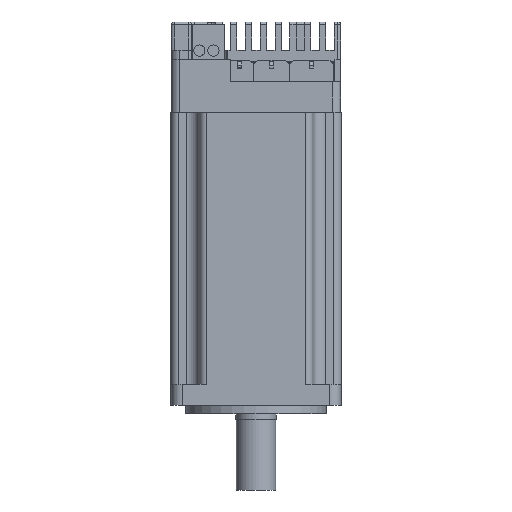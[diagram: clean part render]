
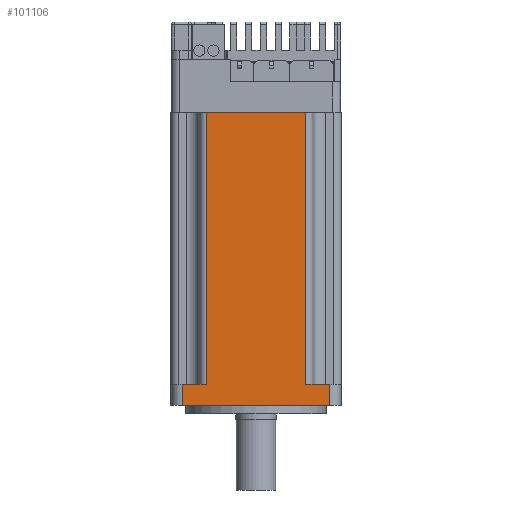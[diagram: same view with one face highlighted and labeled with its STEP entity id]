
A CAD part, front view. The second image highlights one B-rep face of the part: STEP entity #101106.
In plain terms, the highlighted planar face has unit normal (0, -1, 0).
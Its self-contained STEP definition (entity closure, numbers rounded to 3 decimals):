
#405 = DIRECTION ( 'NONE',  ( 0., 0., -1. ) ) ;
#935 = EDGE_CURVE ( 'NONE', #37239, #153620, #44738, .T. ) ;
#1781 = EDGE_CURVE ( 'NONE', #125103, #114938, #113337, .T. ) ;
#6971 = CARTESIAN_POINT ( 'NONE',  ( 26.15, -30.15, 7.5 ) ) ;
#12540 = CARTESIAN_POINT ( 'NONE',  ( -17.65, -30.15, 7.5 ) ) ;
#15590 = DIRECTION ( 'NONE',  ( 0., 0., -1. ) ) ;
#16151 = EDGE_CURVE ( 'NONE', #25704, #52038, #116669, .T. ) ;
#17747 = CARTESIAN_POINT ( 'NONE',  ( 26.15, -30.15, 7.5 ) ) ;
#18412 = LINE ( 'NONE', #127237, #50770 ) ;
#23272 = CARTESIAN_POINT ( 'NONE',  ( 17.65, -30.15, 104. ) ) ;
#24786 = VECTOR ( 'NONE', #119898, 1000. ) ;
#25704 = VERTEX_POINT ( 'NONE', #60937 ) ;
#27536 = VECTOR ( 'NONE', #107231, 1000. ) ;
#30593 = DIRECTION ( 'NONE',  ( 0., 1., 0. ) ) ;
#36404 = CARTESIAN_POINT ( 'NONE',  ( -26.15, -30.15, 7.5 ) ) ;
#36591 = LINE ( 'NONE', #12540, #96817 ) ;
#37239 = VERTEX_POINT ( 'NONE', #23272 ) ;
#38803 = CARTESIAN_POINT ( 'NONE',  ( -17.65, -30.15, 104. ) ) ;
#40337 = DIRECTION ( 'NONE',  ( 1., 0., 0. ) ) ;
#42034 = VERTEX_POINT ( 'NONE', #78975 ) ;
#44013 = ORIENTED_EDGE ( 'NONE', *, *, #1781, .T. ) ;
#44738 = LINE ( 'NONE', #58384, #27536 ) ;
#47433 = ORIENTED_EDGE ( 'NONE', *, *, #132099, .F. ) ;
#50770 = VECTOR ( 'NONE', #61966, 1000. ) ;
#52038 = VERTEX_POINT ( 'NONE', #59780 ) ;
#55811 = DIRECTION ( 'NONE',  ( 0., 0., -1. ) ) ;
#58384 = CARTESIAN_POINT ( 'NONE',  ( 17.65, -30.15, 104. ) ) ;
#58625 = EDGE_CURVE ( 'NONE', #153620, #25704, #36591, .T. ) ;
#59780 = CARTESIAN_POINT ( 'NONE',  ( 26.15, -30.15, 0. ) ) ;
#60937 = CARTESIAN_POINT ( 'NONE',  ( 26.15, -30.15, 7.5 ) ) ;
#61791 = EDGE_CURVE ( 'NONE', #125103, #37239, #125190, .T. ) ;
#61966 = DIRECTION ( 'NONE',  ( 1., 0., 0. ) ) ;
#62102 = ORIENTED_EDGE ( 'NONE', *, *, #935, .F. ) ;
#62930 = ORIENTED_EDGE ( 'NONE', *, *, #16151, .F. ) ;
#75973 = ORIENTED_EDGE ( 'NONE', *, *, #58625, .F. ) ;
#78826 = ORIENTED_EDGE ( 'NONE', *, *, #84814, .T. ) ;
#78975 = CARTESIAN_POINT ( 'NONE',  ( -26.15, -30.15, 0. ) ) ;
#81311 = EDGE_LOOP ( 'NONE', ( #115800, #62930, #75973, #62102, #158107, #44013, #47433, #78826 ) ) ;
#84589 = LINE ( 'NONE', #133255, #108849 ) ;
#84814 = EDGE_CURVE ( 'NONE', #126114, #42034, #84589, .T. ) ;
#85726 = VECTOR ( 'NONE', #55811, 1000. ) ;
#90630 = DIRECTION ( 'NONE',  ( 0., 0., 1. ) ) ;
#90868 = CARTESIAN_POINT ( 'NONE',  ( -17.65, -30.15, 104. ) ) ;
#91143 = EDGE_CURVE ( 'NONE', #42034, #52038, #157280, .T. ) ;
#91437 = FACE_OUTER_BOUND ( 'NONE', #81311, .T. ) ;
#95628 = CARTESIAN_POINT ( 'NONE',  ( -17.65, -30.15, 104. ) ) ;
#96817 = VECTOR ( 'NONE', #110278, 1000. ) ;
#101106 = ADVANCED_FACE ( 'NONE', ( #91437 ), #140093, .F. ) ;
#102593 = AXIS2_PLACEMENT_3D ( 'NONE', #17747, #30593, #90630 ) ;
#107231 = DIRECTION ( 'NONE',  ( 0., 0., -1. ) ) ;
#108849 = VECTOR ( 'NONE', #405, 1000. ) ;
#110278 = DIRECTION ( 'NONE',  ( 1., 0., 0. ) ) ;
#113337 = LINE ( 'NONE', #90868, #154596 ) ;
#114938 = VERTEX_POINT ( 'NONE', #147945 ) ;
#115800 = ORIENTED_EDGE ( 'NONE', *, *, #91143, .T. ) ;
#116669 = LINE ( 'NONE', #6971, #85726 ) ;
#119898 = DIRECTION ( 'NONE',  ( 1., 0., 0. ) ) ;
#125103 = VERTEX_POINT ( 'NONE', #95628 ) ;
#125190 = LINE ( 'NONE', #38803, #139220 ) ;
#126114 = VERTEX_POINT ( 'NONE', #36404 ) ;
#127237 = CARTESIAN_POINT ( 'NONE',  ( -17.65, -30.15, 7.5 ) ) ;
#131026 = CARTESIAN_POINT ( 'NONE',  ( 26.15, -30.15, 0. ) ) ;
#132099 = EDGE_CURVE ( 'NONE', #126114, #114938, #18412, .T. ) ;
#133255 = CARTESIAN_POINT ( 'NONE',  ( -26.15, -30.15, 7.5 ) ) ;
#139220 = VECTOR ( 'NONE', #40337, 1000. ) ;
#140028 = CARTESIAN_POINT ( 'NONE',  ( 17.65, -30.15, 7.5 ) ) ;
#140093 = PLANE ( 'NONE',  #102593 ) ;
#147945 = CARTESIAN_POINT ( 'NONE',  ( -17.65, -30.15, 7.5 ) ) ;
#153620 = VERTEX_POINT ( 'NONE', #140028 ) ;
#154596 = VECTOR ( 'NONE', #15590, 1000. ) ;
#157280 = LINE ( 'NONE', #131026, #24786 ) ;
#158107 = ORIENTED_EDGE ( 'NONE', *, *, #61791, .F. ) ;
